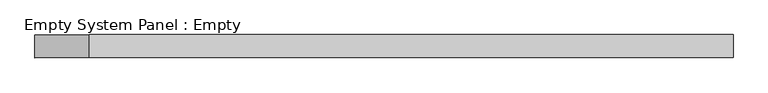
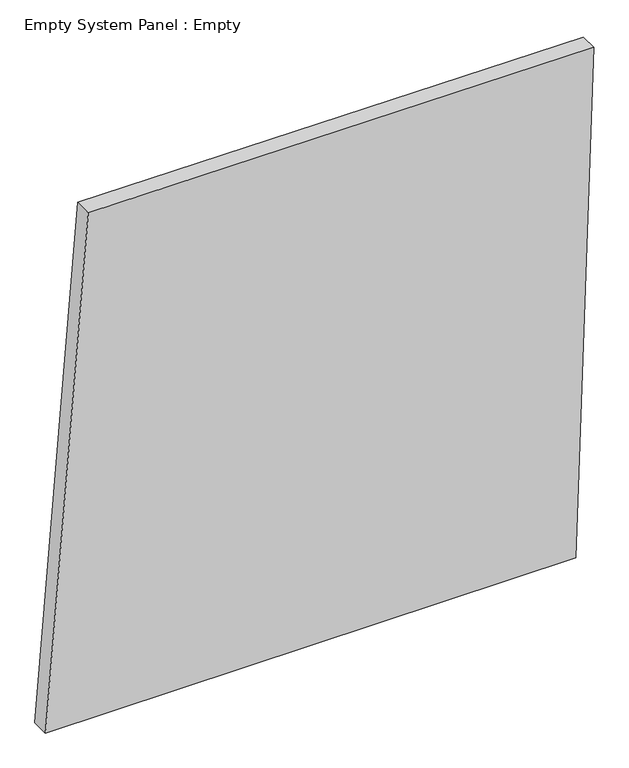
"""IFC4 building model written with IfcOpenShell, lengths in millimetres: plate geometry, Empty System Panel : Empty."""

from ifc_helpers import new_model, si_unit, frame, origin, place, context, project, spatial, polyline, outline, extrude, source, transform, mapped, element, save


def empty_system_panel_empty_9545f0f2(model_context):
    return source(origin(), model_context, "Body", "SweptSolid", [
        extrude(outline(polyline([(0.0, -1536.105304), (0.0, 1433.9182945), (2985.2156629, 1536.105304), (2997.7105363, -1296.2380495), (0.0, -1536.105304)])), frame((0.0, -50.8, 0.0), z_axis=(0.0, 1.0, 0.0), x_axis=(0.0, 0.0, 1.0)), (0.0, 0.0, 1.0), 101.6),
    ])


if __name__ == "__main__":
    model = new_model("IFC4")
    model_context = context("Model", 3, world=origin())
    ifc_project = project(units=[si_unit("LENGTHUNIT", "METRE", prefix="MILLI")], contexts=[model_context])
    site = spatial("IfcSite", under=ifc_project)
    building = spatial("IfcBuilding", under=site)
    placement = place(None, origin())
    empty_system_panel_empty_shape = empty_system_panel_empty_9545f0f2(model_context)
    element("IfcPlate", 1, ObjectType="Empty System Panel : Empty", at=placement, inside=building, context=model_context, shape_type="MappedRepresentation", body=[
        mapped(empty_system_panel_empty_shape, transform((0.0, 0.0, 0.0), x_axis=(1.0, 0.0, 0.0), y_axis=(0.0, 1.0, 0.0), z_axis=(0.0, 0.0, 1.0))),
    ])
    save(model, "model.ifc")
